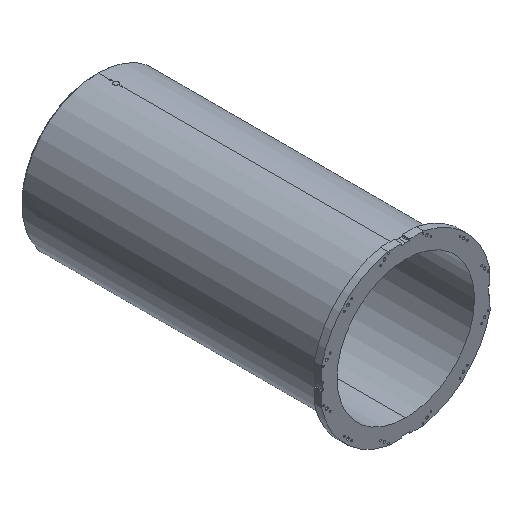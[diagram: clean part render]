
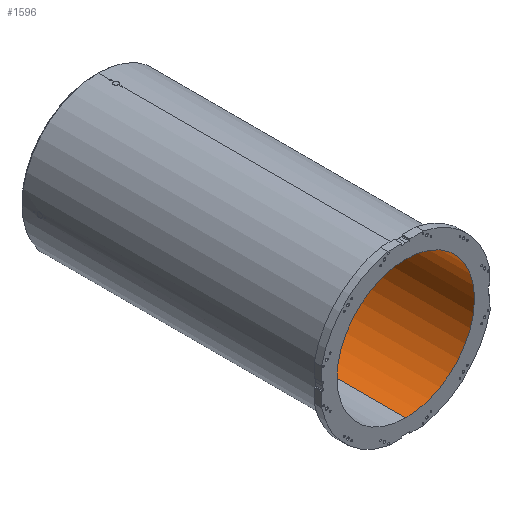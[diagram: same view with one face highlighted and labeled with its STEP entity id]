
A CAD part, isometric view. The second image highlights one B-rep face of the part: STEP entity #1596.
In plain terms, the highlighted cylindrical face has radius 555 mm (diameter 1110 mm), a partial arc.
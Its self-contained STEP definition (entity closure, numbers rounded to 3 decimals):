
#27 = ORIENTED_EDGE ( 'NONE', *, *, #5067, .T. ) ;
#84 = EDGE_CURVE ( 'NONE', #10128, #7376, #5302, .T. ) ;
#187 = LINE ( 'NONE', #8656, #9606 ) ;
#450 = CARTESIAN_POINT ( 'NONE',  ( 0., 2444., 555. ) ) ;
#1166 = CARTESIAN_POINT ( 'NONE',  ( 0., 0., 0. ) ) ;
#1596 = ADVANCED_FACE ( 'NONE', ( #11486 ), #12525, .F. ) ;
#2215 = DIRECTION ( 'NONE',  ( 0., -1., 0. ) ) ;
#2422 = VERTEX_POINT ( 'NONE', #450 ) ;
#2870 = AXIS2_PLACEMENT_3D ( 'NONE', #8857, #10933, #7896 ) ;
#2941 = DIRECTION ( 'NONE',  ( 0., -1., 0. ) ) ;
#3062 = DIRECTION ( 'NONE',  ( 0., 0., -1. ) ) ;
#3083 = CARTESIAN_POINT ( 'NONE',  ( 0., 0., 0. ) ) ;
#3717 = ORIENTED_EDGE ( 'NONE', *, *, #9307, .T. ) ;
#3890 = CARTESIAN_POINT ( 'NONE',  ( 0., 2444., -555. ) ) ;
#4309 = CARTESIAN_POINT ( 'NONE',  ( 0., 0., 555. ) ) ;
#5067 = EDGE_CURVE ( 'NONE', #8096, #10128, #187, .T. ) ;
#5302 = CIRCLE ( 'NONE', #13264, 555. ) ;
#6926 = CARTESIAN_POINT ( 'NONE',  ( 0., 0., 555. ) ) ;
#7342 = DIRECTION ( 'NONE',  ( 0., -1., 0. ) ) ;
#7376 = VERTEX_POINT ( 'NONE', #6926 ) ;
#7487 = ORIENTED_EDGE ( 'NONE', *, *, #13189, .F. ) ;
#7521 = AXIS2_PLACEMENT_3D ( 'NONE', #1166, #7342, #3062 ) ;
#7896 = DIRECTION ( 'NONE',  ( 0., 0., -1. ) ) ;
#8096 = VERTEX_POINT ( 'NONE', #3890 ) ;
#8340 = ORIENTED_EDGE ( 'NONE', *, *, #84, .T. ) ;
#8656 = CARTESIAN_POINT ( 'NONE',  ( 0., 0., -555. ) ) ;
#8857 = CARTESIAN_POINT ( 'NONE',  ( 0., 2444., 0. ) ) ;
#9307 = EDGE_CURVE ( 'NONE', #2422, #8096, #11052, .T. ) ;
#9606 = VECTOR ( 'NONE', #2215, 1000. ) ;
#10128 = VERTEX_POINT ( 'NONE', #12594 ) ;
#10452 = LINE ( 'NONE', #4309, #10506 ) ;
#10506 = VECTOR ( 'NONE', #12580, 1000. ) ;
#10933 = DIRECTION ( 'NONE',  ( 0., 1., 0. ) ) ;
#11052 = CIRCLE ( 'NONE', #2870, 555. ) ;
#11372 = DIRECTION ( 'NONE',  ( 0., 0., -1. ) ) ;
#11486 = FACE_OUTER_BOUND ( 'NONE', #13045, .T. ) ;
#12525 = CYLINDRICAL_SURFACE ( 'NONE', #7521, 555. ) ;
#12580 = DIRECTION ( 'NONE',  ( 0., -1., 0. ) ) ;
#12594 = CARTESIAN_POINT ( 'NONE',  ( 0., 0., -555. ) ) ;
#13045 = EDGE_LOOP ( 'NONE', ( #7487, #3717, #27, #8340 ) ) ;
#13189 = EDGE_CURVE ( 'NONE', #2422, #7376, #10452, .T. ) ;
#13264 = AXIS2_PLACEMENT_3D ( 'NONE', #3083, #2941, #11372 ) ;
